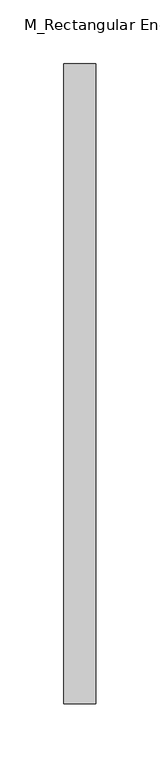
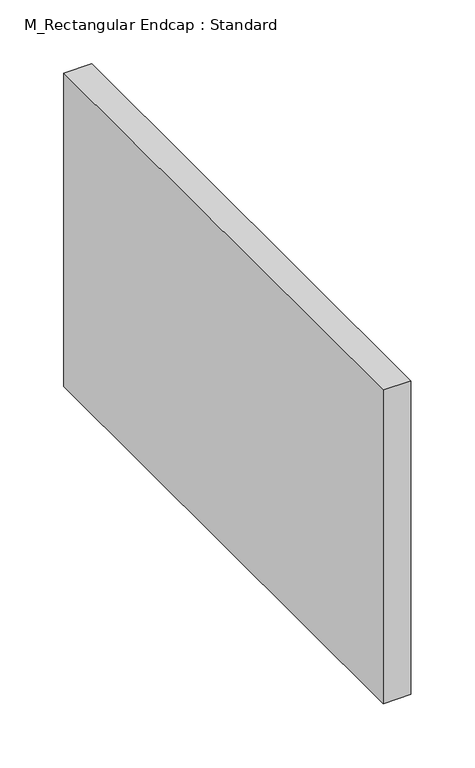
"""IFC4 building model written with IfcOpenShell, lengths in millimetres: duct fitting geometry, M_Rectangular Endcap : Standard."""

from ifc_helpers import new_model, si_unit, frame, origin, place, context, project, spatial, polyline, outline, extrude, source, transform, mapped, element, save


def m_rectangular_endcap_standard_72d4d00d(model_context):
    return source(origin(), model_context, "Body", "SweptSolid", [
        extrude(outline(polyline([(0.0, -250.0), (0.0, 250.0), (25.0, 250.0), (25.0, -250.0), (0.0, -250.0)])), frame((0.0, 0.0, -150.0), z_axis=(0.0, 0.0, 1.0), x_axis=(1.0, 0.0, 0.0)), (0.0, 0.0, 1.0), 300.0),
    ])


if __name__ == "__main__":
    model = new_model("IFC4")
    model_context = context("Model", 3, world=origin())
    ifc_project = project(units=[si_unit("LENGTHUNIT", "METRE", prefix="MILLI")], contexts=[model_context])
    site = spatial("IfcSite", under=ifc_project)
    building = spatial("IfcBuilding", under=site)
    placement = place(None, origin())
    m_rectangular_endcap_standard_shape = m_rectangular_endcap_standard_72d4d00d(model_context)
    element("IfcDuctFitting", 1, ObjectType="M_Rectangular Endcap : Standard", at=placement, inside=building, context=model_context, shape_type="MappedRepresentation", body=[
        mapped(m_rectangular_endcap_standard_shape, transform((0.0, 0.0, 0.0), x_axis=(1.0, 0.0, 0.0), y_axis=(0.0, 1.0, 0.0), z_axis=(0.0, 0.0, 1.0))),
    ])
    save(model, "model.ifc")
